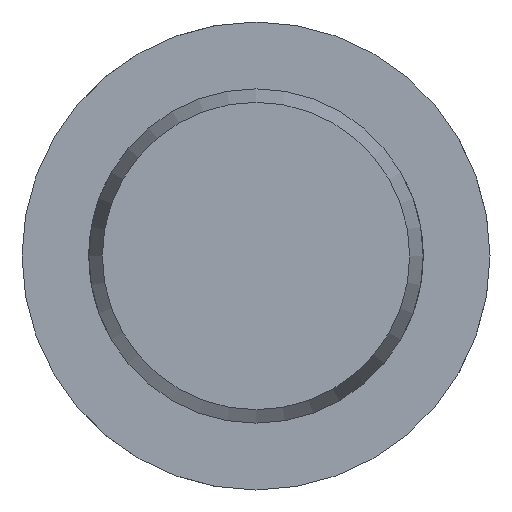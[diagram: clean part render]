
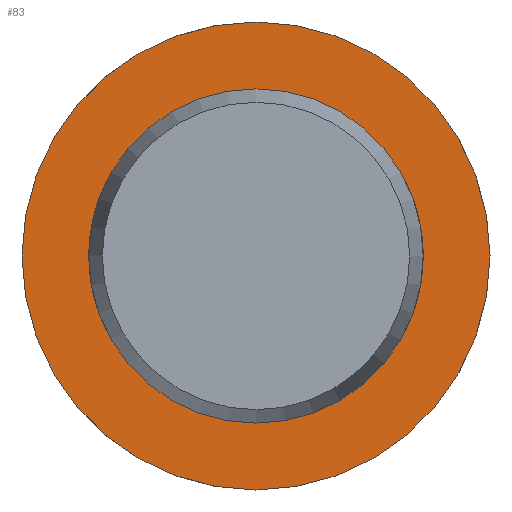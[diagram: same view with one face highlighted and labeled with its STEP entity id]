
A CAD part, left-side view. The second image highlights one B-rep face of the part: STEP entity #83.
In plain terms, the highlighted planar face has unit normal (-1, 0, 0).
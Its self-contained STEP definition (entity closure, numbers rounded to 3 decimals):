
#83 = ADVANCED_FACE( '', ( #129, #130 ), #131, .F. );
#129 = FACE_OUTER_BOUND( '', #208, .T. );
#130 = FACE_BOUND( '', #209, .T. );
#131 = PLANE( '', #210 );
#208 = EDGE_LOOP( '', ( #325 ) );
#209 = EDGE_LOOP( '', ( #326 ) );
#210 = AXIS2_PLACEMENT_3D( '', #327, #328, #329 );
#325 = ORIENTED_EDGE( '', *, *, #493, .F. );
#326 = ORIENTED_EDGE( '', *, *, #483, .T. );
#327 = CARTESIAN_POINT( '', ( 130.5, 10., 0. ) );
#328 = DIRECTION( '', ( 1., 0., 0. ) );
#329 = DIRECTION( '', ( 0., 0., -1. ) );
#483 = EDGE_CURVE( '', #554, #554, #555, .T. );
#493 = EDGE_CURVE( '', #572, #572, #573, .T. );
#554 = VERTEX_POINT( '', #759 );
#555 = CIRCLE( '', #760, 10. );
#572 = VERTEX_POINT( '', #942 );
#573 = CIRCLE( '', #943, 14. );
#759 = CARTESIAN_POINT( '', ( 130.5, 0., -10. ) );
#760 = AXIS2_PLACEMENT_3D( '', #1006, #1007, #1008 );
#942 = CARTESIAN_POINT( '', ( 130.5, 0., -14. ) );
#943 = AXIS2_PLACEMENT_3D( '', #1027, #1028, #1029 );
#1006 = CARTESIAN_POINT( '', ( 130.5, 0., 0. ) );
#1007 = DIRECTION( '', ( 1., 0., 0. ) );
#1008 = DIRECTION( '', ( 0., 0., -1. ) );
#1027 = CARTESIAN_POINT( '', ( 130.5, 0., 0. ) );
#1028 = DIRECTION( '', ( 1., 0., 0. ) );
#1029 = DIRECTION( '', ( 0., 0., -1. ) );
